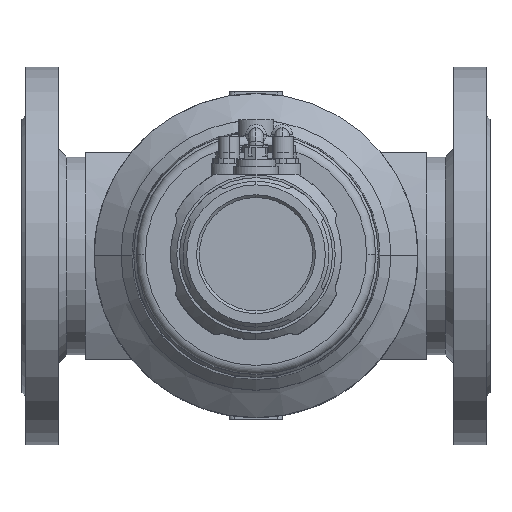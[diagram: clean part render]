
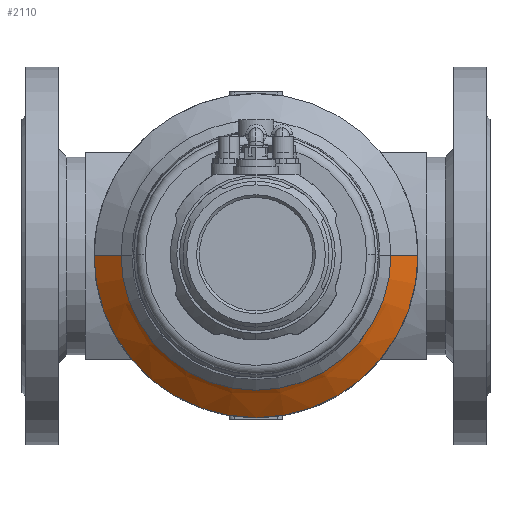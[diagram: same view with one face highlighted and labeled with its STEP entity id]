
A CAD part, top view. The second image highlights one B-rep face of the part: STEP entity #2110.
In plain terms, the highlighted conical face has half-angle 51.34 degrees and reference radius 77.5 mm.
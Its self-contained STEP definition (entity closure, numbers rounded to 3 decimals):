
#189=DIRECTION('',(0.781,0.,0.625));
#190=VECTOR('',#189,32.016);
#191=CARTESIAN_POINT('',(-90.,0.,120.));
#192=LINE('',#191,#190);
#193=DIRECTION('',(-0.781,0.,0.625));
#194=VECTOR('',#193,32.016);
#195=CARTESIAN_POINT('',(90.,0.,120.));
#196=LINE('',#195,#194);
#215=CARTESIAN_POINT('',(0.,0.,120.));
#216=DIRECTION('',(0.,0.,1.));
#217=DIRECTION('',(-1.,0.,0.));
#218=AXIS2_PLACEMENT_3D('',#215,#216,#217);
#1417=CARTESIAN_POINT('',(0.,0.,140.));
#1418=DIRECTION('',(0.,0.,1.));
#1419=DIRECTION('',(-1.,0.,0.));
#1420=AXIS2_PLACEMENT_3D('',#1417,#1418,#1419);
#1838=CARTESIAN_POINT('',(90.,0.,120.));
#1839=CARTESIAN_POINT('',(-90.,0.,120.));
#1840=VERTEX_POINT('',#1838);
#1841=VERTEX_POINT('',#1839);
#1842=CARTESIAN_POINT('',(65.,0.,140.));
#1843=CARTESIAN_POINT('',(-65.,0.,140.));
#1844=VERTEX_POINT('',#1842);
#1845=VERTEX_POINT('',#1843);
#2097=CARTESIAN_POINT('',(0.,0.,130.));
#2098=DIRECTION('',(0.,0.,-1.));
#2099=DIRECTION('',(1.,0.,0.));
#2100=AXIS2_PLACEMENT_3D('',#2097,#2098,#2099);
#2101=CONICAL_SURFACE('',#2100,77.5,51.34);
#2103=ORIENTED_EDGE('',*,*,#2102,.F.);
#2104=ORIENTED_EDGE('',*,*,#2092,.T.);
#2106=ORIENTED_EDGE('',*,*,#2105,.T.);
#2107=ORIENTED_EDGE('',*,*,#2088,.F.);
#2108=EDGE_LOOP('',(#2103,#2104,#2106,#2107));
#2109=FACE_OUTER_BOUND('',#2108,.F.);
#2110=ADVANCED_FACE('',(#2109),#2101,.T.);
#219=CIRCLE('',#218,90.);
#1421=CIRCLE('',#1420,65.);
#2088=EDGE_CURVE('',#1840,#1844,#196,.T.);
#2092=EDGE_CURVE('',#1841,#1845,#192,.T.);
#2102=EDGE_CURVE('',#1841,#1840,#219,.T.);
#2105=EDGE_CURVE('',#1845,#1844,#1421,.T.);
